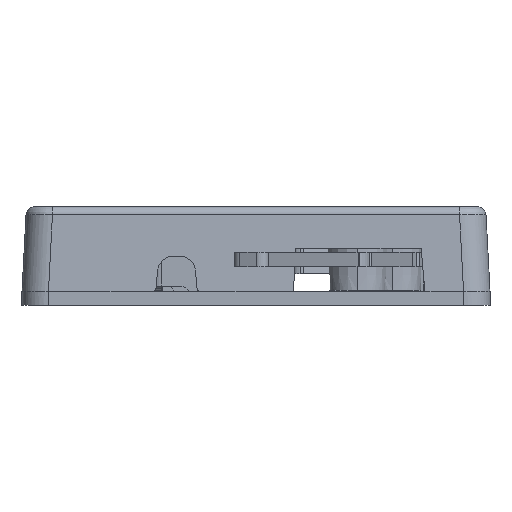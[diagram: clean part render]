
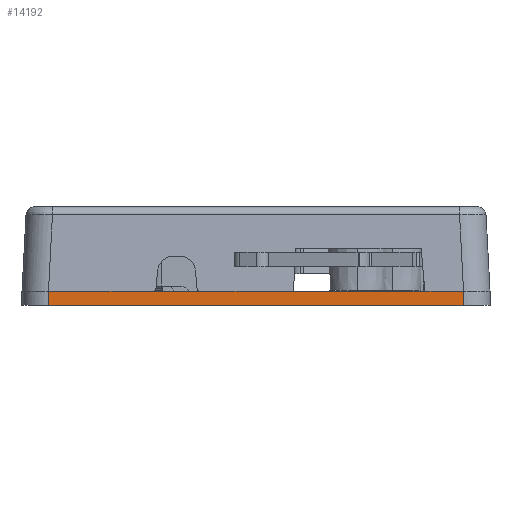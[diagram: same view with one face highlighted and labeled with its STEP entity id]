
A CAD part, left-side view. The second image highlights one B-rep face of the part: STEP entity #14192.
In plain terms, the highlighted planar face has unit normal (-1, 0, 0).
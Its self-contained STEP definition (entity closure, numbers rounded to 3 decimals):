
#573 = DIRECTION ( 'NONE',  ( 0., 1., 0. ) ) ;
#613 = DIRECTION ( 'NONE',  ( 0., 1., 0. ) ) ;
#687 = EDGE_CURVE ( 'NONE', #21900, #7510, #5271, .T. ) ;
#1089 = ORIENTED_EDGE ( 'NONE', *, *, #25840, .T. ) ;
#1937 = VERTEX_POINT ( 'NONE', #18364 ) ;
#2563 = VERTEX_POINT ( 'NONE', #17675 ) ;
#2768 = ORIENTED_EDGE ( 'NONE', *, *, #6398, .T. ) ;
#2850 = CARTESIAN_POINT ( 'NONE',  ( -94., 0., -9.6 ) ) ;
#3039 = DIRECTION ( 'NONE',  ( 0., 1., 0. ) ) ;
#3652 = PLANE ( 'NONE',  #28008 ) ;
#3858 = CARTESIAN_POINT ( 'NONE',  ( -94., 50., -9.6 ) ) ;
#4035 = DIRECTION ( 'NONE',  ( 0., 0., -1. ) ) ;
#5270 = VECTOR ( 'NONE', #3039, 1000. ) ;
#5271 = LINE ( 'NONE', #2850, #19542 ) ;
#5283 = ORIENTED_EDGE ( 'NONE', *, *, #16371, .T. ) ;
#6398 = EDGE_CURVE ( 'NONE', #2563, #16182, #21524, .T. ) ;
#6628 = LINE ( 'NONE', #13618, #23255 ) ;
#7191 = EDGE_CURVE ( 'NONE', #26520, #10563, #29539, .T. ) ;
#7510 = VERTEX_POINT ( 'NONE', #3858 ) ;
#7558 = ORIENTED_EDGE ( 'NONE', *, *, #20881, .F. ) ;
#7580 = CARTESIAN_POINT ( 'NONE',  ( -94., 0., -9.6 ) ) ;
#7879 = LINE ( 'NONE', #15023, #5270 ) ;
#8716 = CARTESIAN_POINT ( 'NONE',  ( -94., 3., -11.2 ) ) ;
#8978 = VECTOR ( 'NONE', #4035, 1000. ) ;
#9701 = CARTESIAN_POINT ( 'NONE',  ( -94., 3., -9.6 ) ) ;
#10180 = FACE_OUTER_BOUND ( 'NONE', #20312, .T. ) ;
#10181 = ORIENTED_EDGE ( 'NONE', *, *, #687, .T. ) ;
#10332 = DIRECTION ( 'NONE',  ( 1., 0., 0. ) ) ;
#10563 = VERTEX_POINT ( 'NONE', #9701 ) ;
#11074 = EDGE_CURVE ( 'NONE', #7510, #27123, #11301, .T. ) ;
#11301 = LINE ( 'NONE', #20122, #8978 ) ;
#12297 = LINE ( 'NONE', #7580, #27602 ) ;
#13618 = CARTESIAN_POINT ( 'NONE',  ( -94., 0., -11.2 ) ) ;
#13726 = CARTESIAN_POINT ( 'NONE',  ( -94., 50., -11.2 ) ) ;
#14192 = ADVANCED_FACE ( 'NONE', ( #10180 ), #3652, .F. ) ;
#14534 = CARTESIAN_POINT ( 'NONE',  ( -94., 0., -9.6 ) ) ;
#15023 = CARTESIAN_POINT ( 'NONE',  ( -94., 0., -9.6 ) ) ;
#16005 = LINE ( 'NONE', #24968, #28001 ) ;
#16153 = DIRECTION ( 'NONE',  ( 0., 1., 0. ) ) ;
#16182 = VERTEX_POINT ( 'NONE', #16412 ) ;
#16371 = EDGE_CURVE ( 'NONE', #16182, #1937, #12297, .T. ) ;
#16412 = CARTESIAN_POINT ( 'NONE',  ( -94., 22.257, -9.6 ) ) ;
#16459 = EDGE_CURVE ( 'NONE', #10563, #2563, #7879, .T. ) ;
#17675 = CARTESIAN_POINT ( 'NONE',  ( -94., 7.371, -9.6 ) ) ;
#17702 = CARTESIAN_POINT ( 'NONE',  ( -94., 3., -11.2 ) ) ;
#18364 = CARTESIAN_POINT ( 'NONE',  ( -94., 32.875, -9.6 ) ) ;
#18665 = CARTESIAN_POINT ( 'NONE',  ( -94., 38.125, -9.6 ) ) ;
#19143 = CARTESIAN_POINT ( 'NONE',  ( -94., 0., -11.2 ) ) ;
#19542 = VECTOR ( 'NONE', #573, 1000. ) ;
#20122 = CARTESIAN_POINT ( 'NONE',  ( -94., 50., -11.2 ) ) ;
#20298 = VECTOR ( 'NONE', #27260, 1000. ) ;
#20312 = EDGE_LOOP ( 'NONE', ( #7558, #20684, #24614, #2768, #5283, #1089, #10181, #28734 ) ) ;
#20684 = ORIENTED_EDGE ( 'NONE', *, *, #7191, .T. ) ;
#20881 = EDGE_CURVE ( 'NONE', #26520, #27123, #6628, .T. ) ;
#21524 = LINE ( 'NONE', #14534, #26157 ) ;
#21900 = VERTEX_POINT ( 'NONE', #18665 ) ;
#23255 = VECTOR ( 'NONE', #23793, 1000. ) ;
#23793 = DIRECTION ( 'NONE',  ( 0., 1., 0. ) ) ;
#24105 = DIRECTION ( 'NONE',  ( 0., 1., 0. ) ) ;
#24614 = ORIENTED_EDGE ( 'NONE', *, *, #16459, .T. ) ;
#24968 = CARTESIAN_POINT ( 'NONE',  ( -94., 0., -9.6 ) ) ;
#25840 = EDGE_CURVE ( 'NONE', #1937, #21900, #16005, .T. ) ;
#26157 = VECTOR ( 'NONE', #24105, 1000. ) ;
#26520 = VERTEX_POINT ( 'NONE', #17702 ) ;
#27123 = VERTEX_POINT ( 'NONE', #13726 ) ;
#27260 = DIRECTION ( 'NONE',  ( 0., 0., 1. ) ) ;
#27602 = VECTOR ( 'NONE', #613, 1000. ) ;
#28001 = VECTOR ( 'NONE', #16153, 1000. ) ;
#28008 = AXIS2_PLACEMENT_3D ( 'NONE', #19143, #10332, #28579 ) ;
#28579 = DIRECTION ( 'NONE',  ( 0., 0., -1. ) ) ;
#28734 = ORIENTED_EDGE ( 'NONE', *, *, #11074, .T. ) ;
#29539 = LINE ( 'NONE', #8716, #20298 ) ;
